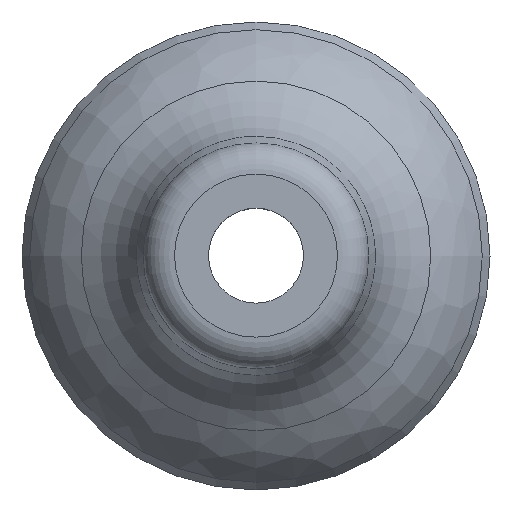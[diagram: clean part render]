
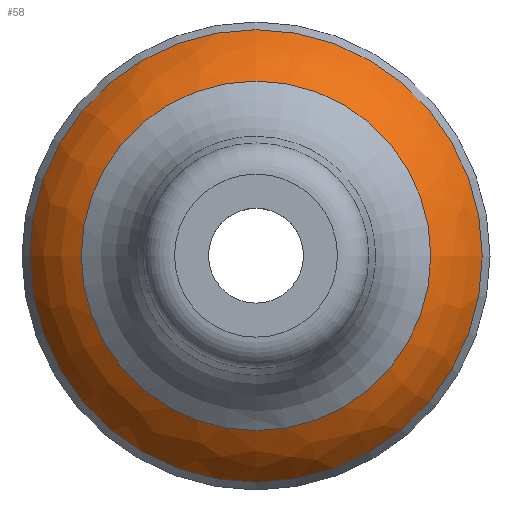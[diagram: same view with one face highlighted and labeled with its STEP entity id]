
A CAD part, top view. The second image highlights one B-rep face of the part: STEP entity #58.
In plain terms, the highlighted free-form (B-spline) face has degree [3, 3] with [4, 7] control points.
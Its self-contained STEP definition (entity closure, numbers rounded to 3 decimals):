
#58=ADVANCED_FACE('',(#121,#122),#123,.T.);
#121=FACE_OUTER_BOUND('',#176,.T.);
#122=FACE_OUTER_BOUND('',#177,.T.);
#123=(B_SPLINE_SURFACE(3,3,((#179,#180,#181,#182,#183,#184,#185),(#186,#187,#188,#189,#190,#191,#192),(#193,#194,#195,#196,#197,#198,#199),(#200,#201,#202,#203,#204,#205,#206)),.UNSPECIFIED.,.F.,.T.,.F.)B_SPLINE_SURFACE_WITH_KNOTS((4,4),(4,3,4),(0.0,6.283),(-1.031,-0.768,-0.505),.UNSPECIFIED.)RATIONAL_B_SPLINE_SURFACE(((1.0,0.333,0.333,1.0,0.333,0.333,1.0),(0.977,0.326,0.326,0.977,0.326,0.326,0.977),(0.977,0.326,0.326,0.977,0.326,0.326,0.977),(1.0,0.333,0.333,1.0,0.333,0.333,1.0)))BOUNDED_SURFACE()REPRESENTATION_ITEM('')GEOMETRIC_REPRESENTATION_ITEM()SURFACE());
#176=EDGE_LOOP('',(#281));
#177=EDGE_LOOP('',(#282));
#179=CARTESIAN_POINT('',(0.0,14.296,1.271));
#180=CARTESIAN_POINT('',(28.592,14.296,1.271));
#181=CARTESIAN_POINT('',(28.592,-14.296,1.271));
#182=CARTESIAN_POINT('',(0.0,-14.296,1.271));
#183=CARTESIAN_POINT('',(-28.592,-14.296,1.271));
#184=CARTESIAN_POINT('',(-28.592,14.296,1.271));
#185=CARTESIAN_POINT('',(0.0,14.296,1.271));
#186=CARTESIAN_POINT('',(0.0,13.524,2.67));
#187=CARTESIAN_POINT('',(27.047,13.524,2.67));
#188=CARTESIAN_POINT('',(27.047,-13.524,2.67));
#189=CARTESIAN_POINT('',(0.0,-13.524,2.67));
#190=CARTESIAN_POINT('',(-27.047,-13.524,2.67));
#191=CARTESIAN_POINT('',(-27.047,13.524,2.67));
#192=CARTESIAN_POINT('',(0.0,13.524,2.67));
#193=CARTESIAN_POINT('',(0.0,12.414,3.819));
#194=CARTESIAN_POINT('',(24.828,12.414,3.819));
#195=CARTESIAN_POINT('',(24.828,-12.414,3.819));
#196=CARTESIAN_POINT('',(0.0,-12.414,3.819));
#197=CARTESIAN_POINT('',(-24.828,-12.414,3.819));
#198=CARTESIAN_POINT('',(-24.828,12.414,3.819));
#199=CARTESIAN_POINT('',(0.0,12.414,3.819));
#200=CARTESIAN_POINT('',(0.0,11.043,4.64));
#201=CARTESIAN_POINT('',(22.086,11.043,4.64));
#202=CARTESIAN_POINT('',(22.086,-11.043,4.64));
#203=CARTESIAN_POINT('',(0.0,-11.043,4.64));
#204=CARTESIAN_POINT('',(-22.086,-11.043,4.64));
#205=CARTESIAN_POINT('',(-22.086,11.043,4.64));
#206=CARTESIAN_POINT('',(0.0,11.043,4.64));
#281=ORIENTED_EDGE('',*,*,#296,.T.);
#282=ORIENTED_EDGE('',*,*,#304,.F.);
#296=EDGE_CURVE('',#328,#328,#329,.F.);
#304=EDGE_CURVE('',#339,#339,#340,.T.);
#328=VERTEX_POINT('',#397);
#329=CIRCLE('',#398,11.043);
#339=VERTEX_POINT('',#408);
#340=CIRCLE('',#409,14.296);
#397=CARTESIAN_POINT('',(0.,-11.043,4.64));
#398=AXIS2_PLACEMENT_3D('',#433,#434,#435);
#408=CARTESIAN_POINT('',(0.0,14.296,1.271));
#409=AXIS2_PLACEMENT_3D('',#442,#443,#444);
#433=CARTESIAN_POINT('',(0.0,0.,4.64));
#434=DIRECTION('',(0.0,0.,1.0));
#435=DIRECTION('',(0.0,-1.0,0.));
#442=CARTESIAN_POINT('',(0.0,0.,1.271));
#443=DIRECTION('',(0.0,0.,-1.0));
#444=DIRECTION('',(0.0,1.0,0.));
